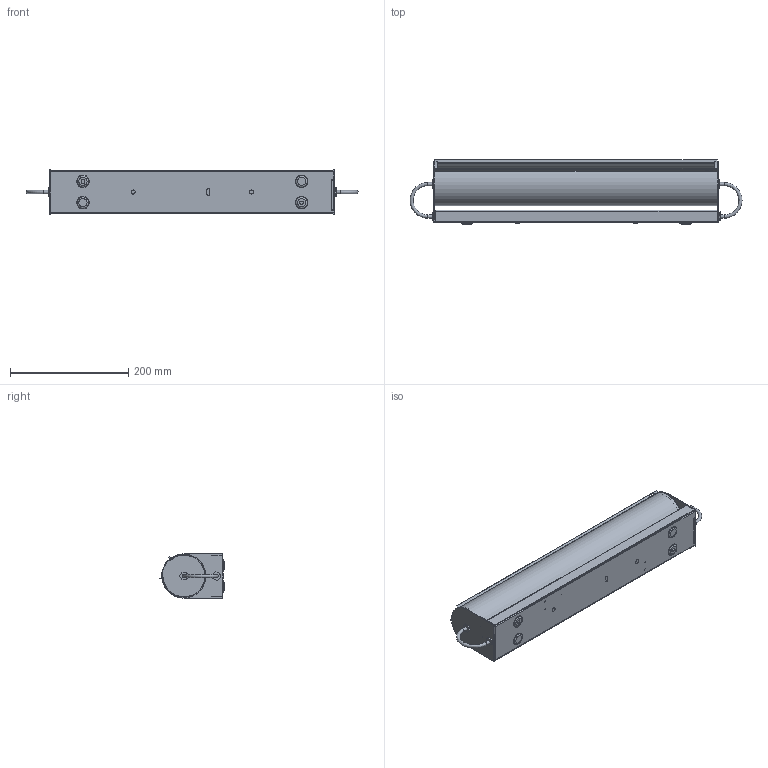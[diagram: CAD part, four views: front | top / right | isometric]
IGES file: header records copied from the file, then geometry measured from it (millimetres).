
Start section: SolidWorks IGES file using analytic representation for surfaces
Global section: file name: N:\- Ingeneria\DISEGNI\PRODOTTI\CYLINDRIQUE\DOCUMENTI\3d per sito\800CYLENB321.IGS; native system: SolidWorks 2016; preprocessor: SolidWorks 2016; author: blivolsi; date: 200703.141838; units: millimetre
Bounding box: 561.77 x 108.68 x 75 mm (x, y, z)
Surface area: 453784 mm2 (no closed solid volume)
Topology: 0 solids, 0 shells, 460 faces, 4597 edges, 4522 vertices
Faces by surface type: revolution 311, bspline 149
